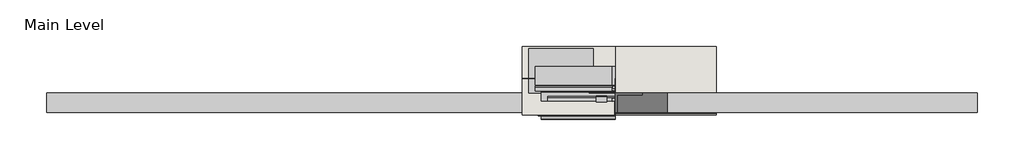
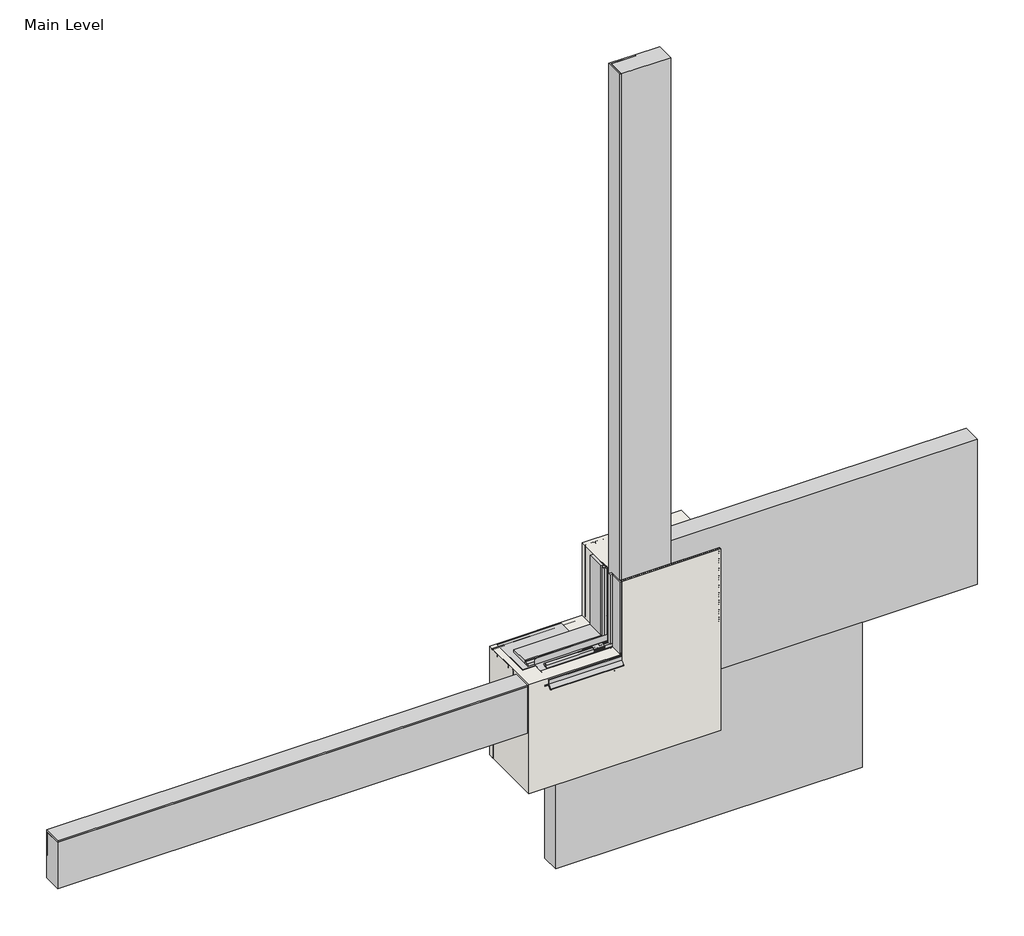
# One storey, incomplete: 20 proxies, 1 wall.
"""IFC4 building model written with IfcOpenShell, lengths in millimetres."""

from ifc_helpers import new_model, si_unit, frame, origin, place, context, project, spatial, polyline, outline, extrude, transform, mapped, element, save
from components import generic_models_31547c53, generic_models_d28646c3, generic_models_6d26ea6e, generic_models_db5184ed, generic_models_008a3d59, generic_models_12b73edd, proxy_ba8d72b4, proxy_a98eb32a, proxy_9e09e9f6, finish_coat_filler_finish_coat_filler_9b34bf11, masonry_sill_masonry_sill_390e7bcf, masonry_sill1_masonry_sill_69ac0e3b, masonry_sill3_masonry_sill_d59b7927, masonry_sill4_masonry_sill_9228ef93, proxy_a3fd9b0b, proxy_3a0ad636, proxy_0073da47, proxy_6f3203ff, window_header_window_header_abd4ef46, wood_blocking_5320d369

model = new_model("IFC4")

# Units and contexts
model_context = context("Model", 3, world=origin())
ifc_project = project(units=[si_unit("LENGTHUNIT", "METRE", prefix="MILLI")], contexts=[model_context])

# Site, building, storey
site = spatial("IfcSite", under=ifc_project)
building = spatial("IfcBuilding", under=site)
storey = spatial("IfcBuildingStorey", under=building, Name="Main Level", Elevation=0.0)

# Proxies
placement = place(None, origin())
generic_models_shape = generic_models_31547c53(model_context)
element("IfcBuildingElementProxy", 1, Name="Durabond Generic Model Sealant Vent : Durabond Generic Model Sealant Vent", ObjectType="Durabond Generic Model Sealant Vent : Durabond Generic Model Sealant Vent", at=placement, inside=storey, context=model_context, shape_type="MappedRepresentation", body=[
    mapped(generic_models_shape, transform((26800.7195523, 590.8476543, 464.646745), x_axis=(1.0, 0.0, 0.0), y_axis=(0.0, 0.08715574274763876, -0.9961946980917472), z_axis=(0.0, 0.9961946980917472, 0.08715574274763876))),
])
generic_models_2_shape = generic_models_d28646c3(model_context)
element("IfcBuildingElementProxy", 2, Name="CRAi Generic Model Line Based Drip Deflector : CRAi Generic Model Line Based Drip Deflector", ObjectType="CRAi Generic Model Line Based Drip Deflector : CRAi Generic Model Line Based Drip Deflector", at=placement, inside=storey, context=model_context, shape_type="MappedRepresentation", body=[
    mapped(generic_models_2_shape, transform((26855.8851773, 535.1829375, 451.8088934), x_axis=(0.0, 0.996194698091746, 0.08715574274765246), y_axis=(-1.0, 0.0, 0.0), z_axis=(0.0, -0.0871557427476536, 0.996194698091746))),
])
generic_models_3_shape = generic_models_6d26ea6e(model_context)
generic_models_4_shape = generic_models_db5184ed(model_context)
generic_models_5_shape = generic_models_008a3d59(model_context)
generic_models_6_shape = generic_models_12b73edd(model_context)
element("IfcBuildingElementProxy", 3, Name="CRAi Generic Model Mesh Piece Face Based : CRAi Generic Model Mesh Piece Face Based", ObjectType="CRAi Generic Model Mesh Piece Face Based : CRAi Generic Model Mesh Piece Face Based", at=placement, inside=storey, context=model_context, shape_type="MappedRepresentation", body=[
    mapped(generic_models_3_shape, transform((27054.3226773, 541.9066297, 606.6633203), x_axis=(-1.0, 0.0, 0.0), y_axis=(0.0, 0.0, -1.0), z_axis=(0.0, -1.0, 0.0))),
    mapped(generic_models_4_shape, transform((27054.3226773, 541.9066297, 606.6633203), x_axis=(-1.0, 0.0, 0.0), y_axis=(0.0, 0.0, -1.0), z_axis=(0.0, -1.0, 0.0))),
    mapped(generic_models_5_shape, transform((27054.3226773, 541.9066297, 606.6633203), x_axis=(-1.0, 0.0, 0.0), y_axis=(0.0, 0.0, -1.0), z_axis=(0.0, -1.0, 0.0))),
    mapped(generic_models_6_shape, transform((27054.3226773, 541.9066297, 606.6633203), x_axis=(-1.0, 0.0, 0.0), y_axis=(0.0, 0.0, -1.0), z_axis=(0.0, -1.0, 0.0))),
])
proxy_shape = proxy_ba8d72b4(model_context)
element("IfcBuildingElementProxy", 4, Name="Durabond Generic Model Equalite Select Boundary Board : 3\"", ObjectType="Durabond Generic Model Equalite Select Boundary Board : 3\"", at=placement, inside=storey, context=model_context, shape_type="MappedRepresentation", body=[
    mapped(proxy_shape, transform((25839.8851773, 624.4566297, 349.375778), x_axis=(-1.0, 0.0, 0.0), y_axis=(0.0, 0.0, -1.0), z_axis=(0.0, -1.0, 0.0))),
])
proxy_2_shape = proxy_a98eb32a(model_context)
element("IfcBuildingElementProxy", 5, Name="Durabond Generic Model Equalite Select Boundary Board : 3\"", ObjectType="Durabond Generic Model Equalite Select Boundary Board : 3\"", at=placement, inside=storey, context=model_context, shape_type="MappedRepresentation", body=[
    mapped(proxy_2_shape, transform((26957.4851773, 624.4566297, 1670.175778), x_axis=(0.0, 0.0, 1.0), y_axis=(-1.0, 0.0, 0.0), z_axis=(0.0, -1.0, 0.0))),
])
proxy_3_shape = proxy_9e09e9f6(model_context)
element("IfcBuildingElementProxy", 6, Name="Durabond Generic Model Equalite Insulation Board : 3\"", ObjectType="Durabond Generic Model Equalite Insulation Board : 3\"", at=placement, inside=storey, context=model_context, shape_type="MappedRepresentation", body=[
    mapped(proxy_3_shape, transform((27211.4851773, 624.4566297, -57.024222), x_axis=(1.0, 0.0, 0.0), y_axis=(0.0, 0.0, 1.0), z_axis=(0.0, -1.0, 0.0))),
])
element("IfcBuildingElementProxy", 7, Name="Durabond Generic Model Equalite Insulation Board : 3\"", ObjectType="Durabond Generic Model Equalite Insulation Board : 3\"", at=placement, inside=storey, context=model_context, shape_type="MappedRepresentation", body=[
    mapped(proxy_3_shape, transform((27668.6851773, 624.4566297, 552.575778), x_axis=(1.0, 0.0, 0.0), y_axis=(0.0, 0.0, 1.0), z_axis=(0.0, -1.0, 0.0))),
])
finish_coat_filler_finish_coat_filler_shape = finish_coat_filler_finish_coat_filler_9b34bf11(model_context)
element("IfcBuildingElementProxy", 8, Name="Finish Coat Filler : Finish Coat Filler", ObjectType="Finish Coat Filler : Finish Coat Filler", at=placement, inside=storey, context=model_context, shape_type="MappedRepresentation", body=[
    mapped(finish_coat_filler_finish_coat_filler_shape, transform((0.0, 0.0, -152.4), x_axis=(1.0, 0.0, 0.0), y_axis=(0.0, 1.0, 0.0), z_axis=(0.0, 0.0, 1.0))),
])
masonry_sill_masonry_sill_shape = masonry_sill_masonry_sill_390e7bcf(model_context)
element("IfcBuildingElementProxy", 9, Name="Masonry Sill : Masonry Sill", ObjectType="Masonry Sill : Masonry Sill", at=placement, inside=storey, context=model_context, shape_type="MappedRepresentation", body=[
    mapped(masonry_sill_masonry_sill_shape, transform((0.0, 0.0, 0.0), x_axis=(1.0, 0.0, 0.0), y_axis=(0.0, 1.0, 0.0), z_axis=(0.0, 0.0, 1.0))),
])
masonry_sill1_masonry_sill_shape = masonry_sill1_masonry_sill_69ac0e3b(model_context)
element("IfcBuildingElementProxy", 10, Name="Masonry Sill1 : Masonry Sill", ObjectType="Masonry Sill1 : Masonry Sill", at=placement, inside=storey, context=model_context, shape_type="MappedRepresentation", body=[
    mapped(masonry_sill1_masonry_sill_shape, transform((0.0, 0.0, -152.4), x_axis=(1.0, 0.0, 0.0), y_axis=(0.0, 1.0, 0.0), z_axis=(0.0, 0.0, 1.0))),
])
masonry_sill3_masonry_sill_shape = masonry_sill3_masonry_sill_d59b7927(model_context)
element("IfcBuildingElementProxy", 11, Name="Masonry Sill3 : Masonry Sill", ObjectType="Masonry Sill3 : Masonry Sill", at=placement, inside=storey, context=model_context, shape_type="MappedRepresentation", body=[
    mapped(masonry_sill3_masonry_sill_shape, transform((0.0, 0.0, 0.0), x_axis=(1.0, 0.0, 0.0), y_axis=(0.0, 1.0, 0.0), z_axis=(0.0, 0.0, 1.0))),
])
masonry_sill4_masonry_sill_shape = masonry_sill4_masonry_sill_9228ef93(model_context)
element("IfcBuildingElementProxy", 12, Name="Masonry Sill4 : Masonry Sill", ObjectType="Masonry Sill4 : Masonry Sill", at=placement, inside=storey, context=model_context, shape_type="MappedRepresentation", body=[
    mapped(masonry_sill4_masonry_sill_shape, transform((0.0, -6.35, -101.6), x_axis=(1.0, 0.0, 0.0), y_axis=(0.0, 1.0, 0.0), z_axis=(0.0, 0.0, 1.0))),
])
proxy_4_shape = proxy_a3fd9b0b(model_context)
element("IfcBuildingElementProxy", 13, Name="CRAi Generic Model Metal Stud : Metal Framing Stud - 1\" x 3.5\"", ObjectType="CRAi Generic Model Metal Stud : Metal Framing Stud - 1\" x 3.5\"", at=placement, inside=storey, context=model_context, shape_type="MappedRepresentation", body=[
    mapped(proxy_4_shape, transform((26876.5226773, 726.0566297, 0.0), x_axis=(1.0, 0.0, 0.0), y_axis=(0.0, 1.0, 0.0), z_axis=(0.0, 0.0, 1.0))),
])
proxy_5_shape = proxy_3a0ad636(model_context)
element("IfcBuildingElementProxy", 14, Name="CRAi Generic Model Metal Stud : Metal Framing Stud - 1\" x 3.5\"", ObjectType="CRAi Generic Model Metal Stud : Metal Framing Stud - 1\" x 3.5\"", at=placement, inside=storey, context=model_context, shape_type="MappedRepresentation", body=[
    mapped(proxy_5_shape, transform((26876.5226773, 719.7066297, 0.0), x_axis=(1.0, 0.0, 0.0), y_axis=(0.0, 1.0, 0.0), z_axis=(0.0, 0.0, 1.0))),
])
proxy_6_shape = proxy_0073da47(model_context)
element("IfcBuildingElementProxy", 15, Name="CRAi Generic Model Metal Stud : Metal Framing Stud - 1\" x 3.5\"", ObjectType="CRAi Generic Model Metal Stud : Metal Framing Stud - 1\" x 3.5\"", at=placement, inside=storey, context=model_context, shape_type="MappedRepresentation", body=[
    mapped(proxy_6_shape, transform((26914.6226773, 719.7066297, 0.0), x_axis=(-1.0, 0.0, 0.0), y_axis=(0.0, -1.0, 0.0), z_axis=(0.0, 0.0, 1.0))),
])
proxy_7_shape = proxy_6f3203ff(model_context)
element("IfcBuildingElementProxy", 16, Name="CRAi Generic Model Metal Stud : Metal Framing Stud - 1\" x 3.5\"", ObjectType="CRAi Generic Model Metal Stud : Metal Framing Stud - 1\" x 3.5\"", at=placement, inside=storey, context=model_context, shape_type="MappedRepresentation", body=[
    mapped(proxy_7_shape, transform((26508.2226773, 719.7066297, 0.0), x_axis=(-1.0, 0.0, 0.0), y_axis=(0.0, -1.0, 0.0), z_axis=(0.0, 0.0, 1.0))),
])
window_header_window_header_shape = window_header_window_header_abd4ef46(model_context)
element("IfcBuildingElementProxy", 17, Name="Window Header : Window Header", ObjectType="Window Header : Window Header", at=placement, inside=storey, context=model_context, shape_type="MappedRepresentation", body=[
    mapped(window_header_window_header_shape, transform((0.0, -6.35, 0.0), x_axis=(1.0, 0.0, 0.0), y_axis=(0.0, 1.0, 0.0), z_axis=(0.0, 0.0, 1.0))),
])
wood_blocking_shape = wood_blocking_5320d369(model_context)
element("IfcBuildingElementProxy", 18, Name="CRAi Generic Model Line Based Metal Framing Track : Wood Blocking", ObjectType="CRAi Generic Model Line Based Metal Framing Track : Wood Blocking", at=placement, inside=storey, context=model_context, shape_type="MappedRepresentation", body=[
    mapped(wood_blocking_shape, transform((26489.1726773, 643.5066297, 304.8), x_axis=(1.0, 0.0, 0.0), y_axis=(0.0, 1.0, 0.0), z_axis=(0.0, 0.0, 1.0))),
])
element("IfcBuildingElementProxy", 19, Name="CRAi Generic Model Line Based Metal Framing Track : Wood Blocking", ObjectType="CRAi Generic Model Line Based Metal Framing Track : Wood Blocking", at=placement, inside=storey, context=model_context, shape_type="MappedRepresentation", body=[
    mapped(wood_blocking_shape, transform((26489.1726773, 795.907101, 457.2), x_axis=(1.0, 0.0, 0.0), y_axis=(0.0, -1.0, 0.0), z_axis=(0.0, 0.0, -1.0))),
])
element("IfcBuildingElementProxy", 20, Name="CRAi Generic Model Line Based Metal Framing Track : Wood Blocking", ObjectType="CRAi Generic Model Line Based Metal Framing Track : Wood Blocking", at=placement, inside=storey, context=model_context, shape_type="MappedRepresentation", body=[
    mapped(wood_blocking_shape, transform((26489.1726773, 795.9066297, 304.8), x_axis=(1.0, 0.0, 0.0), y_axis=(0.0, -1.0, 0.0), z_axis=(0.0, 0.0, -1.0))),
])

# Wall
element("IfcWall", 21, ObjectType="189mm (7.5”) EIFS Field Applied on Mtl. Stud Layer - 50mm Grooved Insulation Board Metal Stud Wall(AirStop) 2", at=placement, inside=storey, context=model_context, shape_type="SweptSolid", body=[
    extrude(outline(polyline([(0.0, 26489.1726773), (0.0, 27251.1726773), (762.0, 27251.1726773), (762.0, 26857.4726773), (457.2, 26857.4726773), (457.2, 26489.1726773), (0.0, 26489.1726773)])), frame((0.0, 538.7316297, 0.0), z_axis=(0.0, 1.0, 0.0), x_axis=(0.0, 0.0, 1.0)), (0.0, 0.0, 1.0), 269.875),
])

save(model, "model.ifc")
